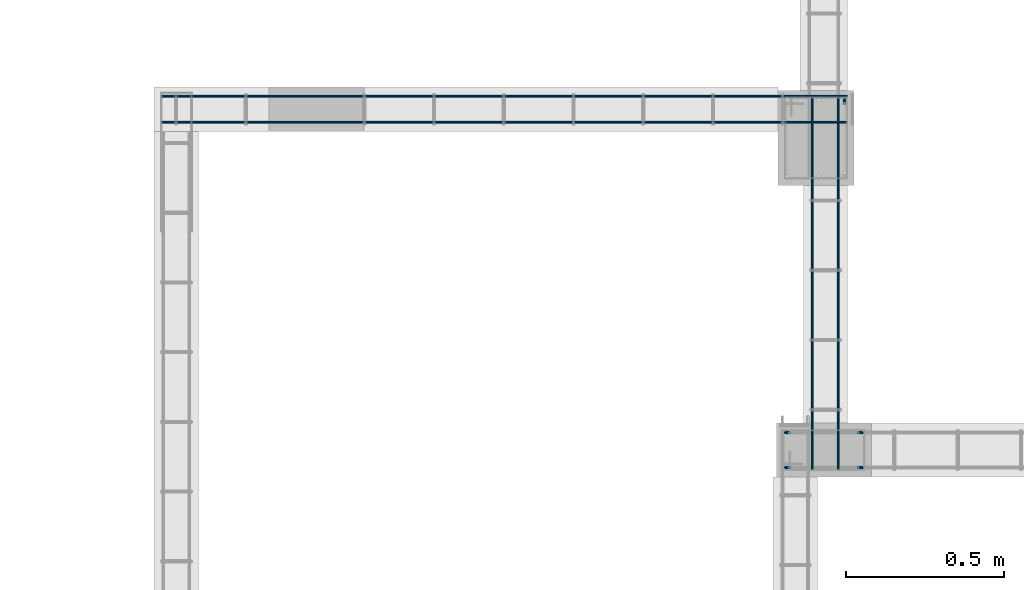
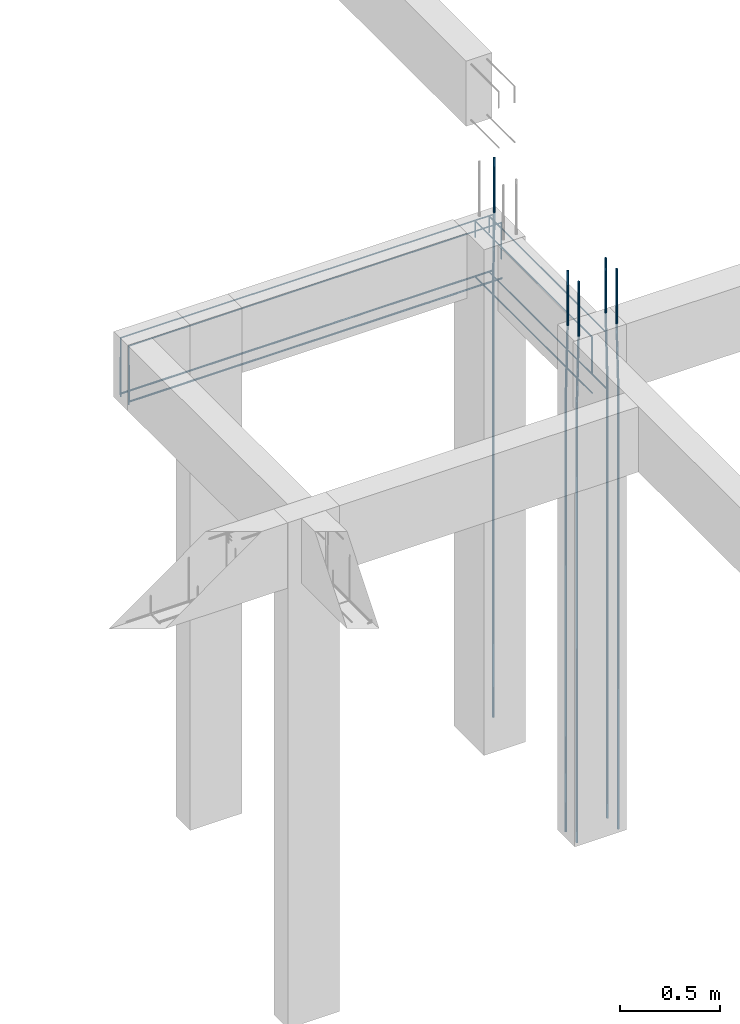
# One storey, part 85 of 236: 13 reinforcing bars.
"""IFC4 building model written with IfcOpenShell, lengths in centimetres."""

from ifc_helpers import new_model, entity, si_unit, derived_unit, frame, origin_with_axes, place, context, project, spatial, element, save


model = new_model("IFC4")

# Units and contexts
model_context = context("Model", 3, precision=1e-05, world=origin_with_axes(), identifier="Body")
ifc_project = project(units=[si_unit("LENGTHUNIT", "METRE", prefix="CENTI"), si_unit("VOLUMEUNIT", "CUBIC_METRE"), si_unit("AREAUNIT", "SQUARE_METRE"), si_unit("POWERUNIT", "WATT"), si_unit("LUMINOUSFLUXUNIT", "LUMEN"), si_unit("ELECTRICCURRENTUNIT", "AMPERE"), si_unit("PRESSUREUNIT", "PASCAL", prefix="KILO"), si_unit("MASSUNIT", "GRAM", prefix="KILO"), si_unit("PLANEANGLEUNIT", "RADIAN"), derived_unit("VOLUMETRICFLOWRATEUNIT", [(si_unit("LENGTHUNIT", "METRE"), 3), (si_unit("TIMEUNIT", "SECOND"), -1)])], contexts=[model_context])

# Site, building, storey
site_placement = place(None, frame((-4000.0, 0.0, 0.0), z_axis=(0.0, 0.0, 1.0), x_axis=(1.0, 0.0, 0.0)))
site = spatial("IfcSite", under=ifc_project, at=site_placement, Name="PADRÃO")
building_placement = place(site_placement, frame((0.0, 0.0, -14.0)))
building = spatial("IfcBuilding", under=site, at=building_placement, Name="CRECHE PRÉ-ESCOLA TIPO 2")
placement_1 = place(building_placement, origin_with_axes())
placement_2 = place(placement_1, frame((0.0, 0.0, 30.0), z_axis=(0.0, 0.0, 1.0), x_axis=(1.0, 0.0, 0.0)))
storey_placement = place(placement_2, frame((0.0, 0.0, 310.0), z_axis=(0.0, 0.0, 1.0), x_axis=(1.0, 0.0, 0.0)))
storey = spatial("IfcBuildingStorey", under=building, at=storey_placement, Name="TERREO", CompositionType="ELEMENT", Elevation=326.0)

# Reinforcing bars
reinforcing_bar_1_placement = place(storey_placement, frame((3154.02, 1925.02, 33.3573001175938), z_axis=(0.0, 0.0, 1.0), x_axis=(1.0, 0.0, 0.0)))
element("IfcReinforcingBar", 1, at=reinforcing_bar_1_placement, inside=storey, Name="P92 - Longitudinal", BarLength=0.0, CrossSectionArea=7.853981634e-05, NominalDiameter=1.0, PredefinedType="MAIN", context=model_context, shape_type="AdvancedSweptSolid", body=[
    entity("IfcSweptDiskSolid", entity("IfcCompositeCurve", [entity("IfcCompositeCurveSegment", "CONTINUOUS", True, entity("IfcPolyline", [entity("IfcCartesianPoint", [0.0, 0.5, -343.357300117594]), entity("IfcCartesianPoint", [0.0, 0.5, -73.3573001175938])])), entity("IfcCompositeCurveSegment", "CONTINUOUS", True, entity("IfcPolyline", [entity("IfcCartesianPoint", [0.0, 0.5, -73.3573001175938]), entity("IfcCartesianPoint", [0.0, -0.5, -33.3573001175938])])), entity("IfcCompositeCurveSegment", "CONTINUOUS", True, entity("IfcPolyline", [entity("IfcCartesianPoint", [0.0, -0.5, -33.3573001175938]), entity("IfcCartesianPoint", [0.0, -0.5, 0.0])]))], False), 0.5),
])
reinforcing_bar_2_placement = place(storey_placement, frame((3136.0, 1809.52, 33.3573001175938), z_axis=(0.0, 0.0, 1.0), x_axis=(1.0, 0.0, 0.0)))
element("IfcReinforcingBar", 2, at=reinforcing_bar_2_placement, inside=storey, Name="P96 - Longitudinal", BarLength=0.0, CrossSectionArea=7.853981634e-05, NominalDiameter=1.0, PredefinedType="MAIN", context=model_context, shape_type="AdvancedSweptSolid", body=[
    entity("IfcSweptDiskSolid", entity("IfcCompositeCurve", [entity("IfcCompositeCurveSegment", "CONTINUOUS", True, entity("IfcPolyline", [entity("IfcCartesianPoint", [-0.5, 0.0, -343.357300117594]), entity("IfcCartesianPoint", [-0.5, 0.0, -73.3573001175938])])), entity("IfcCompositeCurveSegment", "CONTINUOUS", True, entity("IfcPolyline", [entity("IfcCartesianPoint", [-0.5, 0.0, -73.3573001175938]), entity("IfcCartesianPoint", [0.5, 0.0, -33.3573001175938])])), entity("IfcCompositeCurveSegment", "CONTINUOUS", True, entity("IfcPolyline", [entity("IfcCartesianPoint", [0.5, 0.0, -33.3573001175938]), entity("IfcCartesianPoint", [0.5, 0.0, 0.0])]))], False), 0.5),
])
for number, where, z_axis, x_axis, name in (
    (3, (3159.0, 1820.52, 33.3573001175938), (0.0, 0.0, 1.0), (1.0, 0.0, 0.0), "P96 - Longitudinal"),
    (4, (3159.0, 1809.52, 33.3573001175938), (0.0, 0.0, 1.0), (1.0, 0.0, 0.0), "P96 - Longitudinal"),
):
    element("IfcReinforcingBar", number, at=place(storey_placement, frame(where, z_axis=z_axis, x_axis=x_axis)), inside=storey, Name=name, BarLength=0.0, CrossSectionArea=7.853981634e-05, NominalDiameter=1.0, PredefinedType="MAIN", context=model_context, shape_type="AdvancedSweptSolid", body=[
        entity("IfcSweptDiskSolid", entity("IfcCompositeCurve", [entity("IfcCompositeCurveSegment", "CONTINUOUS", True, entity("IfcPolyline", [entity("IfcCartesianPoint", [0.5, 0.0, -343.357300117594]), entity("IfcCartesianPoint", [0.5, 0.0, -73.3573001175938])])), entity("IfcCompositeCurveSegment", "CONTINUOUS", True, entity("IfcPolyline", [entity("IfcCartesianPoint", [0.5, 0.0, -73.3573001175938]), entity("IfcCartesianPoint", [-0.5, 0.0, -33.3573001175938])])), entity("IfcCompositeCurveSegment", "CONTINUOUS", True, entity("IfcPolyline", [entity("IfcCartesianPoint", [-0.5, 0.0, -33.3573001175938]), entity("IfcCartesianPoint", [-0.5, 0.0, 0.0])]))], False), 0.5),
    ])
reinforcing_bar_3_placement = place(storey_placement, frame((3136.0, 1820.52, 33.3573001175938), z_axis=(0.0, 0.0, 1.0), x_axis=(1.0, 0.0, 0.0)))
element("IfcReinforcingBar", 5, at=reinforcing_bar_3_placement, inside=storey, Name="P96 - Longitudinal", BarLength=0.0, CrossSectionArea=7.853981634e-05, NominalDiameter=1.0, PredefinedType="MAIN", context=model_context, shape_type="AdvancedSweptSolid", body=[
    entity("IfcSweptDiskSolid", entity("IfcCompositeCurve", [entity("IfcCompositeCurveSegment", "CONTINUOUS", True, entity("IfcPolyline", [entity("IfcCartesianPoint", [-0.5, 0.0, -343.357300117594]), entity("IfcCartesianPoint", [-0.5, 0.0, -73.3573001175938])])), entity("IfcCompositeCurveSegment", "CONTINUOUS", True, entity("IfcPolyline", [entity("IfcCartesianPoint", [-0.5, 0.0, -73.3573001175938]), entity("IfcCartesianPoint", [0.5, 0.0, -33.3573001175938])])), entity("IfcCompositeCurveSegment", "CONTINUOUS", True, entity("IfcPolyline", [entity("IfcCartesianPoint", [0.5, 0.0, -33.3573001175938]), entity("IfcCartesianPoint", [0.5, 0.0, 0.0])]))], False), 0.5),
])
for number, where, z_axis, x_axis, name in (
    (6, (3046.6281248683, 1926.62, -14.8022873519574), (0.0, 0.0, 1.0), (1.0, 0.0, 0.0), "V234 - Longitudinal inferior"),
    (7, (3046.6281248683, 1918.42, -14.8022873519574), (0.0, 0.0, 1.0), (1.0, 0.0, 0.0), "V234 - Longitudinal inferior"),
):
    element("IfcReinforcingBar", number, at=place(storey_placement, frame(where, z_axis=z_axis, x_axis=x_axis)), inside=storey, Name=name, BarLength=0.0, CrossSectionArea=5.0265482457e-05, NominalDiameter=0.8, PredefinedType="MAIN", context=model_context, shape_type="AdvancedSweptSolid", body=[
        entity("IfcSweptDiskSolid", entity("IfcCompositeCurve", [entity("IfcCompositeCurveSegment", "CONTINUOUS", True, entity("IfcPolyline", [entity("IfcCartesianPoint", [-107.9881248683, 0.0, 0.0]), entity("IfcCartesianPoint", [-107.9881248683, 0.0, -22.2977126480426])])), entity("IfcCompositeCurveSegment", "CONTINUOUS", True, entity("IfcPolyline", [entity("IfcCartesianPoint", [-107.9881248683, 0.0, -22.2977126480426]), entity("IfcCartesianPoint", [108.391875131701, 0.0, -22.2977126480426])]))], False), 0.4),
    ])
for number, where, z_axis, x_axis, name in (
    (8, (3046.63, 1926.62, -2.49624973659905), (0.0, 0.0, 1.0), (1.0, 0.0, 0.0), "V234 - Longitudinal superior"),
    (9, (3046.63, 1918.42, -2.49624973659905), (0.0, 0.0, 1.0), (1.0, 0.0, 0.0), "V234 - Longitudinal superior"),
):
    element("IfcReinforcingBar", number, at=place(storey_placement, frame(where, z_axis=z_axis, x_axis=x_axis)), inside=storey, Name=name, BarLength=0.0, CrossSectionArea=5.0265482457e-05, NominalDiameter=0.8, PredefinedType="MAIN", context=model_context, shape_type="AdvancedSweptSolid", body=[
        entity("IfcSweptDiskSolid", entity("IfcCompositeCurve", [entity("IfcCompositeCurveSegment", "CONTINUOUS", True, entity("IfcPolyline", [entity("IfcCartesianPoint", [-107.99, 0.0, -36.4037502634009]), entity("IfcCartesianPoint", [-107.99, 0.0, -0.403750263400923])])), entity("IfcCompositeCurveSegment", "CONTINUOUS", True, entity("IfcPolyline", [entity("IfcCartesianPoint", [-107.99, 0.0, -0.403750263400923]), entity("IfcCartesianPoint", [107.99, 0.0, -0.403750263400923])])), entity("IfcCompositeCurveSegment", "CONTINUOUS", True, entity("IfcPolyline", [entity("IfcCartesianPoint", [107.99, 0.0, -0.403750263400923]), entity("IfcCartesianPoint", [107.99, 0.0, -22.7014629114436])]))], False), 0.4),
    ])
for number, where, z_axis, x_axis, name in (
    (10, (3143.92, 1867.52, -36.7), (0.0, 0.0, 1.0), (1.0, 0.0, 0.0), "V306 - Longitudinal inferior"),
    (11, (3152.12, 1867.52, -36.7), (0.0, 0.0, 1.0), (1.0, 0.0, 0.0), "V306 - Longitudinal inferior"),
):
    element("IfcReinforcingBar", number, at=place(storey_placement, frame(where, z_axis=z_axis, x_axis=x_axis)), inside=storey, Name=name, BarLength=0.0, CrossSectionArea=5.0265482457e-05, NominalDiameter=0.8, PredefinedType="MAIN", context=model_context, shape_type="AdvancedSweptSolid", body=[
        entity("IfcSweptDiskSolid", entity("IfcCompositeCurve", [entity("IfcCompositeCurveSegment", "CONTINUOUS", True, entity("IfcPolyline", [entity("IfcCartesianPoint", [0.0, -59.0, -0.4]), entity("IfcCartesianPoint", [0.0, 59.0, -0.4])]))], False), 0.4),
    ])
for number, where, z_axis, x_axis, name in (
    (12, (3152.12, 1867.52, -2.49624973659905), (0.0, 0.0, 1.0), (1.0, 0.0, 0.0), "V306 - Longitudinal superior"),
    (13, (3143.92, 1867.52, -2.49624973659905), (0.0, 0.0, 1.0), (1.0, 0.0, 0.0), "V306 - Longitudinal superior"),
):
    element("IfcReinforcingBar", number, at=place(storey_placement, frame(where, z_axis=z_axis, x_axis=x_axis)), inside=storey, Name=name, BarLength=0.0, CrossSectionArea=5.0265482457e-05, NominalDiameter=0.8, PredefinedType="MAIN", context=model_context, shape_type="AdvancedSweptSolid", body=[
        entity("IfcSweptDiskSolid", entity("IfcCompositeCurve", [entity("IfcCompositeCurveSegment", "CONTINUOUS", True, entity("IfcPolyline", [entity("IfcCartesianPoint", [0.0, -58.6, -22.7014629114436]), entity("IfcCartesianPoint", [0.0, -58.6, -0.403750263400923])])), entity("IfcCompositeCurveSegment", "CONTINUOUS", True, entity("IfcPolyline", [entity("IfcCartesianPoint", [0.0, -58.6, -0.403750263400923]), entity("IfcCartesianPoint", [0.0, 58.6, -0.403750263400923])])), entity("IfcCompositeCurveSegment", "CONTINUOUS", True, entity("IfcPolyline", [entity("IfcCartesianPoint", [0.0, 58.6, -0.403750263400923]), entity("IfcCartesianPoint", [0.0, 58.6, -10.4037502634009])]))], False), 0.4),
    ])

save(model, "model.ifc")
